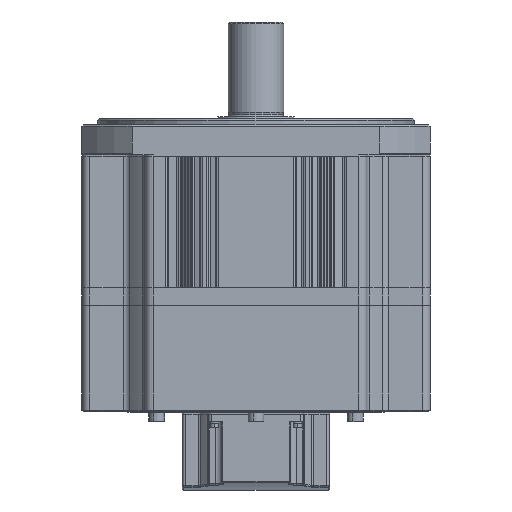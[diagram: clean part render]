
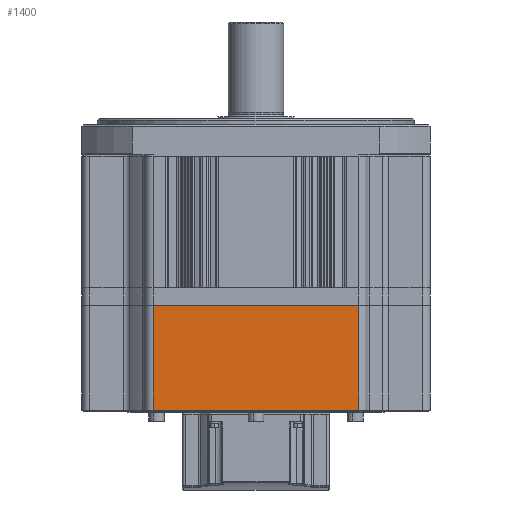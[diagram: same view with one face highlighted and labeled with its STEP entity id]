
A CAD part, front view. The second image highlights one B-rep face of the part: STEP entity #1400.
In plain terms, the highlighted planar face has unit normal (0, -1, 0).
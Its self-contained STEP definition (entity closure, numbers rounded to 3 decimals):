
#1400 = ADVANCED_FACE ( 'NONE', ( #65664 ), #120065, .F. ) ;
#14945 = ORIENTED_EDGE ( 'NONE', *, *, #56950, .T. ) ;
#14953 = ORIENTED_EDGE ( 'NONE', *, *, #56913, .T. ) ;
#14979 = ORIENTED_EDGE ( 'NONE', *, *, #56970, .F. ) ;
#15029 = ORIENTED_EDGE ( 'NONE', *, *, #56960, .T. ) ;
#31003 = AXIS2_PLACEMENT_3D ( 'NONE', #120081, #120073, #120080 ) ;
#38233 = VERTEX_POINT ( 'NONE', #71513 ) ;
#38266 = VERTEX_POINT ( 'NONE', #71485 ) ;
#38282 = VERTEX_POINT ( 'NONE', #71463 ) ;
#38297 = VERTEX_POINT ( 'NONE', #71483 ) ;
#39339 = EDGE_LOOP ( 'NONE', ( #14979, #14945, #15029, #14953 ) ) ;
#56913 = EDGE_CURVE ( 'NONE', #38282, #38233, #93364, .T. ) ;
#56950 = EDGE_CURVE ( 'NONE', #38297, #38266, #93650, .T. ) ;
#56960 = EDGE_CURVE ( 'NONE', #38266, #38282, #93727, .T. ) ;
#56970 = EDGE_CURVE ( 'NONE', #38297, #38233, #93783, .T. ) ;
#63054 = VECTOR ( 'NONE', #93461, 1000. ) ;
#63132 = VECTOR ( 'NONE', #93711, 1000. ) ;
#63137 = VECTOR ( 'NONE', #93760, 1000. ) ;
#63149 = VECTOR ( 'NONE', #93600, 1000. ) ;
#65664 = FACE_OUTER_BOUND ( 'NONE', #39339, .T. ) ;
#71463 = CARTESIAN_POINT ( 'NONE',  ( 65., -110., -94.2 ) ) ;
#71483 = CARTESIAN_POINT ( 'NONE',  ( -65., -110., -160.2 ) ) ;
#71485 = CARTESIAN_POINT ( 'NONE',  ( 65., -110., -160.2 ) ) ;
#71513 = CARTESIAN_POINT ( 'NONE',  ( -65., -110., -94.2 ) ) ;
#93364 = LINE ( 'NONE', #93392, #63054 ) ;
#93392 = CARTESIAN_POINT ( 'NONE',  ( 65., -110., -94.2 ) ) ;
#93461 = DIRECTION ( 'NONE',  ( -1., 0., 0. ) ) ;
#93600 = DIRECTION ( 'NONE',  ( 1., 0., 0. ) ) ;
#93614 = CARTESIAN_POINT ( 'NONE',  ( 0., -110., -160.2 ) ) ;
#93650 = LINE ( 'NONE', #93614, #63149 ) ;
#93711 = DIRECTION ( 'NONE',  ( 0., 0., 1. ) ) ;
#93715 = CARTESIAN_POINT ( 'NONE',  ( 65., -110., -164.7 ) ) ;
#93727 = LINE ( 'NONE', #93715, #63132 ) ;
#93760 = DIRECTION ( 'NONE',  ( 0., 0., 1. ) ) ;
#93783 = LINE ( 'NONE', #93785, #63137 ) ;
#93785 = CARTESIAN_POINT ( 'NONE',  ( -65., -110., -164.7 ) ) ;
#120065 = PLANE ( 'NONE',  #31003 ) ;
#120073 = DIRECTION ( 'NONE',  ( 0., 1., 0. ) ) ;
#120080 = DIRECTION ( 'NONE',  ( 1., 0., 0. ) ) ;
#120081 = CARTESIAN_POINT ( 'NONE',  ( 0., -110., -164.7 ) ) ;
